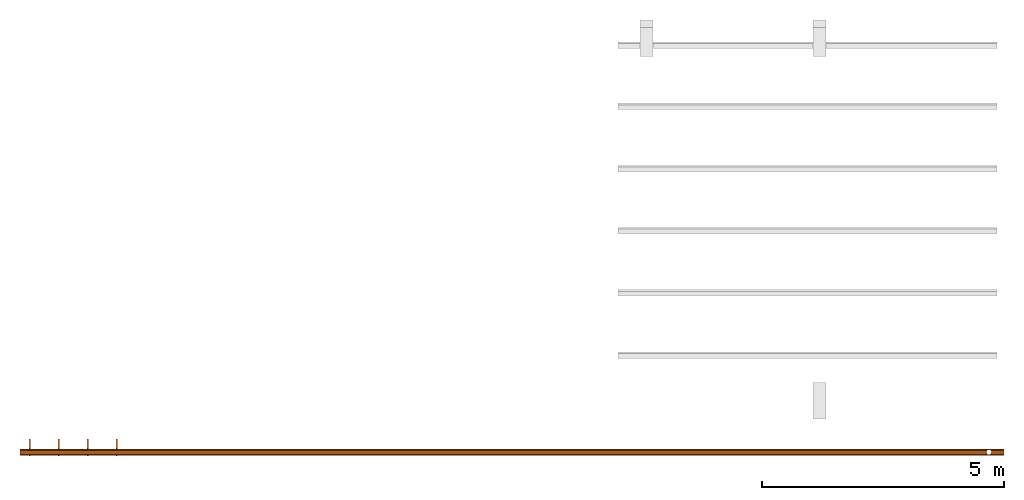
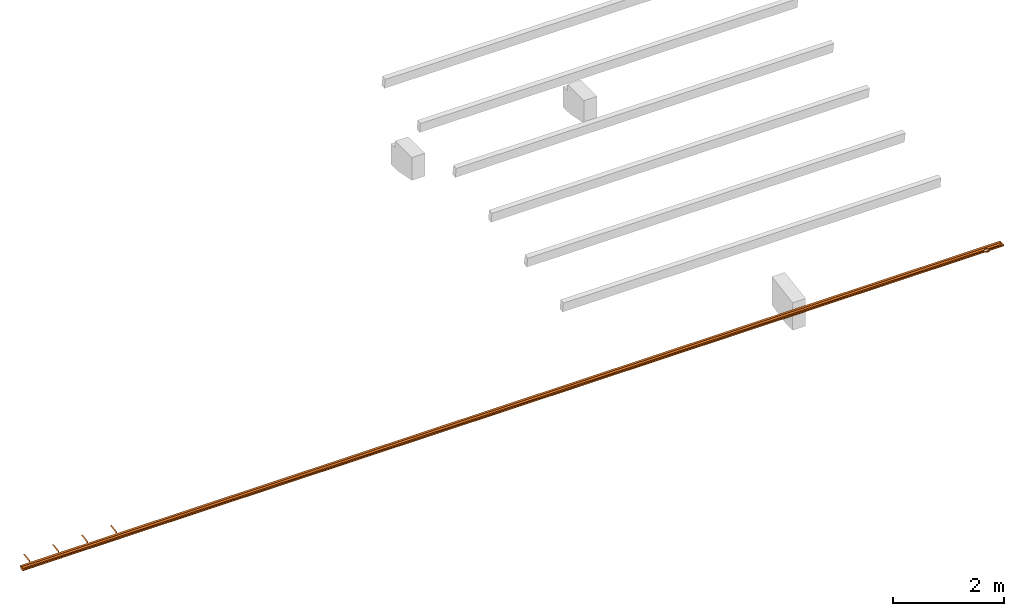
# One storey, part 2 of 2: 1 proxy.
"""IFC2X3 building model written with IfcOpenShell, lengths in metres."""

from ifc_helpers import new_model, entity, si_unit, converted_unit, derived_unit, money_unit, direction, frame, origin_with_axes, place, context, subcontext, project, spatial, open_shell, surface_model, type_object, element, save


model = new_model("IFC2X3")

# Units and contexts
model_context = context("Model", 3, precision=1e-05, world=origin_with_axes(), true_north=direction((0.0, 1.0)))
body_context = subcontext(model_context, "Body", "Model", "MODEL_VIEW")
ifc_project = project(units=[si_unit("LENGTHUNIT", "METRE"), si_unit("AREAUNIT", "SQUARE_METRE"), si_unit("VOLUMEUNIT", "CUBIC_METRE"), converted_unit("PLANEANGLEUNIT", "DEGREE", entity("IfcPlaneAngleMeasure", 0.0174532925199), si_unit("PLANEANGLEUNIT", "RADIAN"), dimensions=[0, 0, 0, 0, 0, 0, 0]), si_unit("SOLIDANGLEUNIT", "STERADIAN"), money_unit("CHF"), converted_unit("TIMEUNIT", "Year", entity("IfcTimeMeasure", 31556926.0), si_unit("TIMEUNIT", "SECOND"), dimensions=[0, 0, 1, 0, 0, 0, 0]), si_unit("MASSUNIT", "GRAM", prefix="KILO"), si_unit("THERMODYNAMICTEMPERATUREUNIT", "DEGREE_CELSIUS"), si_unit("LUMINOUSINTENSITYUNIT", "LUMEN"), si_unit("ENERGYUNIT", "JOULE", prefix="MEGA"), derived_unit("THERMALCONDUCTANCEUNIT", [(si_unit("POWERUNIT", "WATT"), 1), (si_unit("LENGTHUNIT", "METRE"), -1), (si_unit("THERMODYNAMICTEMPERATUREUNIT", "KELVIN"), -1)]), derived_unit("SPECIFICHEATCAPACITYUNIT", [(si_unit("ENERGYUNIT", "JOULE"), 1), (si_unit("MASSUNIT", "GRAM", prefix="KILO"), -1), (si_unit("THERMODYNAMICTEMPERATUREUNIT", "KELVIN"), -1)]), derived_unit("MASSDENSITYUNIT", [(si_unit("MASSUNIT", "GRAM", prefix="KILO"), 1), (si_unit("VOLUMEUNIT", "CUBIC_METRE"), -1)])], contexts=[model_context])

# Site, building, storey
site_placement = place(None, origin_with_axes())
site = spatial("IfcSite", under=ifc_project, at=site_placement, Name="Site", CompositionType="ELEMENT")
building_placement = place(site_placement, origin_with_axes())
building = spatial("IfcBuilding", under=site, at=building_placement, Name="Bâtiment", CompositionType="ELEMENT")
storey_placement = place(building_placement, frame((0.0, 0.0, 2.8), z_axis=(0.0, 0.0, 1.0), x_axis=(1.0, 0.0, 0.0)))
storey = spatial("IfcBuildingStorey", under=building, at=storey_placement, Name="1er étage", CompositionType="ELEMENT", Elevation=2.8)

# Proxy
building_element_proxy_type = type_object("IfcBuildingElementProxyType", Name="Gouttière 24", PredefinedType="USERDEFINED")
proxy_placement = place(storey_placement, frame((11.1671417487, 7.2679346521, 0.18294092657), z_axis=(0.0, 0.0, 1.0), x_axis=(1.0, 0.0, 0.0)))
element("IfcBuildingElementProxy", 1, at=proxy_placement, inside=storey, type_object=building_element_proxy_type, Name="MOBILIER-003", ObjectType="CONSTRUCTION ELEMENT", context=body_context, shape_type="SurfaceModel", body=[
    surface_model("IfcShellBasedSurfaceModel", [(20.0428568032, 0.035, -0.0606217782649), (20.034555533, 0.0433012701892, -0.0523205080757), (20.009555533, 0.05, -0.0456217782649), (19.984555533, 0.0433012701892, -0.0523205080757), (19.9762542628, 0.035, -0.0606217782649), (0.0, 0.035, -0.0606217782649), (0.0, 0.0606217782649, -0.035), (20.32, 0.0606217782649, -0.035), (20.32, 0.035, -0.0606217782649), (19.9662542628, 0.025, -0.0633012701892), (19.959555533, 0.0, -0.07), (0.0, 0.0, -0.07), (0.0, 0.07, 0.0), (20.32, 0.07, 0.0), (20.059555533, 0.0, -0.07), (20.0528568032, 0.025, -0.0633012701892), (20.32, 0.0, -0.07), (19.9662542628, -0.025, -0.0633012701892), (19.9762542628, -0.035, -0.0606217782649), (0.0, -0.035, -0.0606217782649), (20.0428568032, -0.035, -0.0606217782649), (20.0528568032, -0.025, -0.0633012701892), (20.32, -0.035, -0.0606217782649), (19.984555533, -0.0433012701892, -0.0523205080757), (20.009555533, -0.05, -0.0456217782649), (20.034555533, -0.0433012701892, -0.0523205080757), (20.32, -0.0606217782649, -0.035), (0.0, -0.0606217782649, -0.035), (20.32, -0.07, 0.0), (0.0, -0.07, 0.0)], [open_shell([[[0, 1, 2, 3, 4, 5, 6, 7, 8]], [[4, 9, 10, 11, 5]], [[7, 6, 12, 13]], [[14, 15, 0, 8, 16]], [[17, 18, 19, 11, 10]], [[20, 21, 14, 16, 22]], [[18, 23, 24, 25, 20, 22, 26, 27, 19]], [[28, 29, 27, 26]]])]),
    surface_model("IfcShellBasedSurfaceModel", [(19.9662542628, 0.025, -0.0633012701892), (19.9762542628, 0.035, -0.0606217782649), (19.984555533, 0.0433012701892, -0.0523205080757), (19.984555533, 0.0433012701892, -0.07), (19.9662542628, 0.025, -0.07), (20.009555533, 0.05, -0.0456217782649), (20.009555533, 0.05, -0.07), (19.959555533, 0.0, -0.07), (20.034555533, 0.0433012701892, -0.0523205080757), (20.034555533, 0.0433012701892, -0.07), (20.0428568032, 0.035, -0.0606217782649), (20.0528568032, 0.025, -0.0633012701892), (20.0528568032, 0.025, -0.07), (20.059555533, 0.0, -0.07)], [open_shell([[[0, 1, 2, 3, 4]], [[2, 5, 6, 3]], [[0, 4, 7]], [[5, 8, 9, 6]], [[8, 10, 11, 12, 9]], [[11, 13, 12]]])]),
    surface_model("IfcShellBasedSurfaceModel", [(19.9662542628, -0.025, -0.0633012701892), (19.959555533, 0.0, -0.07), (19.9662542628, -0.025, -0.07), (19.984555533, -0.0433012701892, -0.0523205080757), (19.9762542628, -0.035, -0.0606217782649), (19.984555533, -0.0433012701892, -0.07), (20.009555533, -0.05, -0.0456217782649), (20.009555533, -0.05, -0.07), (20.034555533, -0.0433012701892, -0.0523205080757), (20.034555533, -0.0433012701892, -0.07), (20.0528568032, -0.025, -0.0633012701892), (20.0428568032, -0.035, -0.0606217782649), (20.0528568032, -0.025, -0.07), (20.059555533, 0.0, -0.07)], [open_shell([[[0, 1, 2]], [[3, 4, 0, 2, 5]], [[6, 3, 5, 7]], [[8, 6, 7, 9]], [[10, 11, 8, 9, 12]], [[10, 12, 13]]])]),
    surface_model("IfcShellBasedSurfaceModel", [(0.185, 0.074, 0.002), (0.185, 0.06408587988, -0.035), (0.215, 0.06408587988, -0.035), (0.215, 0.074, 0.002), (0.185, 0.037, -0.06208587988), (0.215, 0.037, -0.06208587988), (0.185, 0.0, -0.072), (0.215, 0.0, -0.072), (0.185, -0.037, -0.06208587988), (0.215, -0.037, -0.06208587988), (0.185, -0.06408587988, -0.035), (0.215, -0.06408587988, -0.035), (0.185, -0.074, 0.002), (0.215, -0.074, 0.002)], [open_shell([[[0, 1, 2, 3]], [[1, 4, 5, 2]], [[4, 6, 7, 5]], [[6, 8, 9, 7]], [[8, 10, 11, 9]], [[10, 12, 13, 11]]])]),
    surface_model("IfcShellBasedSurfaceModel", [(0.185, 0.074, 0.002), (0.185, 0.074, 0.022), (0.215, 0.074, 0.022), (0.215, 0.074, 0.002)], [open_shell([[[0, 1, 2, 3]]])]),
    surface_model("IfcShellBasedSurfaceModel", [(0.185, 0.074, 0.022), (0.185, 0.270961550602, 0.0567296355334), (0.215, 0.270961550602, 0.0567296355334), (0.215, 0.074, 0.022)], [open_shell([[[0, 1, 2, 3]]])]),
    surface_model("IfcShellBasedSurfaceModel", [(0.785, 0.074, 0.002), (0.785, 0.06408587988, -0.035), (0.815, 0.06408587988, -0.035), (0.815, 0.074, 0.002), (0.785, 0.037, -0.06208587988), (0.815, 0.037, -0.06208587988), (0.785, 0.0, -0.072), (0.815, 0.0, -0.072), (0.785, -0.037, -0.06208587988), (0.815, -0.037, -0.06208587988), (0.785, -0.06408587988, -0.035), (0.815, -0.06408587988, -0.035), (0.785, -0.074, 0.002), (0.815, -0.074, 0.002)], [open_shell([[[0, 1, 2, 3]], [[1, 4, 5, 2]], [[4, 6, 7, 5]], [[6, 8, 9, 7]], [[8, 10, 11, 9]], [[10, 12, 13, 11]]])]),
    surface_model("IfcShellBasedSurfaceModel", [(0.785, 0.074, 0.002), (0.785, 0.074, 0.022), (0.815, 0.074, 0.022), (0.815, 0.074, 0.002)], [open_shell([[[0, 1, 2, 3]]])]),
    surface_model("IfcShellBasedSurfaceModel", [(0.785, 0.074, 0.022), (0.785, 0.270961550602, 0.0567296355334), (0.815, 0.270961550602, 0.0567296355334), (0.815, 0.074, 0.022)], [open_shell([[[0, 1, 2, 3]]])]),
    surface_model("IfcShellBasedSurfaceModel", [(1.385, 0.074, 0.002), (1.385, 0.06408587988, -0.035), (1.415, 0.06408587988, -0.035), (1.415, 0.074, 0.002), (1.385, 0.037, -0.06208587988), (1.415, 0.037, -0.06208587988), (1.385, 0.0, -0.072), (1.415, 0.0, -0.072), (1.385, -0.037, -0.06208587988), (1.415, -0.037, -0.06208587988), (1.385, -0.06408587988, -0.035), (1.415, -0.06408587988, -0.035), (1.385, -0.074, 0.002), (1.415, -0.074, 0.002)], [open_shell([[[0, 1, 2, 3]], [[1, 4, 5, 2]], [[4, 6, 7, 5]], [[6, 8, 9, 7]], [[8, 10, 11, 9]], [[10, 12, 13, 11]]])]),
    surface_model("IfcShellBasedSurfaceModel", [(1.385, 0.074, 0.002), (1.385, 0.074, 0.022), (1.415, 0.074, 0.022), (1.415, 0.074, 0.002)], [open_shell([[[0, 1, 2, 3]]])]),
    surface_model("IfcShellBasedSurfaceModel", [(1.385, 0.074, 0.022), (1.385, 0.270961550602, 0.0567296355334), (1.415, 0.270961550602, 0.0567296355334), (1.415, 0.074, 0.022)], [open_shell([[[0, 1, 2, 3]]])]),
    surface_model("IfcShellBasedSurfaceModel", [(1.985, 0.074, 0.002), (1.985, 0.06408587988, -0.035), (2.015, 0.06408587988, -0.035), (2.015, 0.074, 0.002), (1.985, 0.037, -0.06208587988), (2.015, 0.037, -0.06208587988), (1.985, 0.0, -0.072), (2.015, 0.0, -0.072), (1.985, -0.037, -0.06208587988), (2.015, -0.037, -0.06208587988), (1.985, -0.06408587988, -0.035), (2.015, -0.06408587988, -0.035), (1.985, -0.074, 0.002), (2.015, -0.074, 0.002)], [open_shell([[[0, 1, 2, 3]], [[1, 4, 5, 2]], [[4, 6, 7, 5]], [[6, 8, 9, 7]], [[8, 10, 11, 9]], [[10, 12, 13, 11]]])]),
    surface_model("IfcShellBasedSurfaceModel", [(1.985, 0.074, 0.002), (1.985, 0.074, 0.022), (2.015, 0.074, 0.022), (2.015, 0.074, 0.002)], [open_shell([[[0, 1, 2, 3]]])]),
    surface_model("IfcShellBasedSurfaceModel", [(1.985, 0.074, 0.022), (1.985, 0.270961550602, 0.0567296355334), (2.015, 0.270961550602, 0.0567296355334), (2.015, 0.074, 0.022)], [open_shell([[[0, 1, 2, 3]]])]),
    surface_model("IfcShellBasedSurfaceModel", [(0.0, -0.07, 0.0), (0.0, -0.0606217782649, -0.035), (0.0, -0.035, -0.0606217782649), (0.0, 0.0, -0.07), (0.0, 0.035, -0.0606217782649), (0.0, 0.0606217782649, -0.035), (0.0, 0.07, 0.0), (0.0, 0.0, 0.0)], [open_shell([[[0, 1, 2, 3, 4, 5, 6, 7]]])]),
    surface_model("IfcShellBasedSurfaceModel", [(20.32, -0.07, 0.0), (20.32, -0.0606217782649, -0.035), (20.32, -0.035, -0.0606217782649), (20.32, 0.0, -0.07), (20.32, 0.035, -0.0606217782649), (20.32, 0.0606217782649, -0.035), (20.32, 0.07, 0.0), (20.32, 0.0, 0.0)], [open_shell([[[0, 1, 2, 3, 4, 5, 6, 7]]])]),
])

save(model, "model.ifc")
